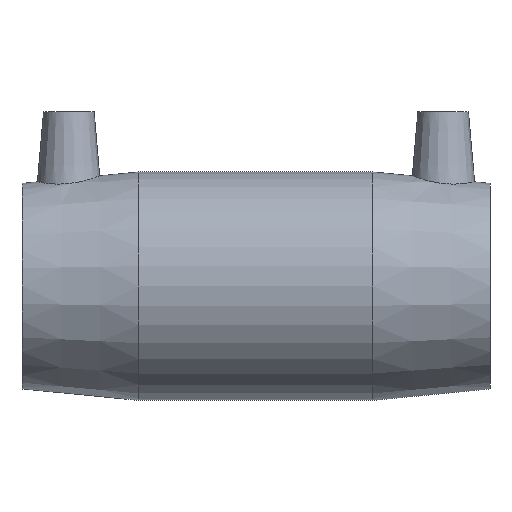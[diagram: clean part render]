
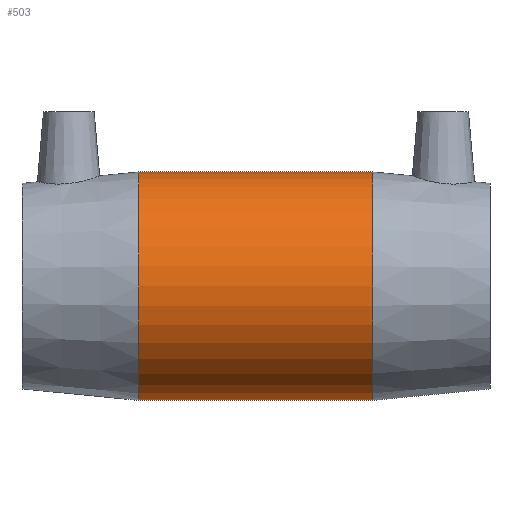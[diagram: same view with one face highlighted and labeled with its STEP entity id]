
A CAD part, top view. The second image highlights one B-rep face of the part: STEP entity #503.
In plain terms, the highlighted cylindrical face has radius 33.909 mm (diameter 67.818 mm), a full revolution.
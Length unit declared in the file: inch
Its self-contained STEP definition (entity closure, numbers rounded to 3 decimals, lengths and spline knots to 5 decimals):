
#26=FACE_BOUND('',#101,.T.);
#64=FACE_OUTER_BOUND('',#100,.T.);
#100=EDGE_LOOP('',(#384,#385,#386,#387,#388,#389));
#101=EDGE_LOOP('',(#390,#391));
#128=B_SPLINE_CURVE_WITH_KNOTS('',3,(#862,#863,#864,#865,#866,#867,#868,
#869,#870,#871,#872,#873,#874,#875,#876,#877,#878,#879),.UNSPECIFIED.,.F.,
 .F.,(4,2,2,2,2,2,2,2,4),(0.,0.47902,0.95804,1.43707,
1.91609,2.38776,2.85944,3.33112,3.80279),
 .UNSPECIFIED.);
#129=B_SPLINE_CURVE_WITH_KNOTS('',3,(#880,#881,#882,#883,#884,#885,#886,
#887,#888,#889,#890,#891,#892,#893,#894,#895,#896,#897,#898,#899,#900,#901,
#902,#903,#904,#905,#906,#907,#908,#909,#910,#911,#912,#913,#914,#915,#916,
#917,#918,#919,#920,#921,#922,#923,#924,#925,#926,#927,#928,#929),
 .UNSPECIFIED.,.F.,.F.,(4,2,2,2,2,2,2,2,2,2,2,2,2,2,2,2,2,2,2,2,2,2,2,2,
4),(3.80279,4.27447,4.74614,5.21782,
5.6895,6.16852,6.64754,7.12656,7.60559,
8.08461,8.56363,9.04265,9.52167,9.99335,
10.46503,10.9367,11.40838,11.88005,12.35173,
12.82341,13.29508,13.7741,14.25313,14.73215,
15.21117),.UNSPECIFIED.);
#142=LINE('',#1054,#160);
#160=VECTOR('',#684,1.335);
#182=CIRCLE('',#567,1.335);
#183=CIRCLE('',#568,1.335);
#184=CIRCLE('',#569,1.335);
#185=CIRCLE('',#570,1.335);
#217=VERTEX_POINT('',#860);
#218=VERTEX_POINT('',#861);
#234=VERTEX_POINT('',#1049);
#235=VERTEX_POINT('',#1050);
#236=VERTEX_POINT('',#1053);
#237=VERTEX_POINT('',#1055);
#270=EDGE_CURVE('',#217,#218,#128,.T.);
#271=EDGE_CURVE('',#218,#217,#129,.T.);
#294=EDGE_CURVE('',#234,#235,#182,.T.);
#295=EDGE_CURVE('',#235,#234,#183,.T.);
#296=EDGE_CURVE('',#235,#236,#142,.T.);
#297=EDGE_CURVE('',#236,#237,#184,.T.);
#298=EDGE_CURVE('',#237,#236,#185,.T.);
#384=ORIENTED_EDGE('',*,*,#294,.F.);
#385=ORIENTED_EDGE('',*,*,#295,.F.);
#386=ORIENTED_EDGE('',*,*,#296,.T.);
#387=ORIENTED_EDGE('',*,*,#297,.T.);
#388=ORIENTED_EDGE('',*,*,#298,.T.);
#389=ORIENTED_EDGE('',*,*,#296,.F.);
#390=ORIENTED_EDGE('',*,*,#270,.T.);
#391=ORIENTED_EDGE('',*,*,#271,.T.);
#482=CYLINDRICAL_SURFACE('',#566,1.335);
#503=ADVANCED_FACE('',(#64,#26),#482,.T.);
#566=AXIS2_PLACEMENT_3D('',#1048,#678,#679);
#567=AXIS2_PLACEMENT_3D('',#1051,#680,#681);
#568=AXIS2_PLACEMENT_3D('',#1052,#682,#683);
#569=AXIS2_PLACEMENT_3D('',#1056,#685,#686);
#570=AXIS2_PLACEMENT_3D('',#1057,#687,#688);
#678=DIRECTION('center_axis',(1.,0.,0.));
#679=DIRECTION('ref_axis',(0.,1.,0.));
#680=DIRECTION('center_axis',(1.,0.,0.));
#681=DIRECTION('ref_axis',(0.,0.,-1.));
#682=DIRECTION('center_axis',(1.,0.,0.));
#683=DIRECTION('ref_axis',(0.,0.,-1.));
#684=DIRECTION('',(-1.,0.,0.));
#685=DIRECTION('center_axis',(1.,0.,0.));
#686=DIRECTION('ref_axis',(0.,0.,-1.));
#687=DIRECTION('center_axis',(1.,0.,0.));
#688=DIRECTION('ref_axis',(0.,0.,-1.));
#860=CARTESIAN_POINT('',(0.,-0.94685,-0.94112));
#861=CARTESIAN_POINT('',(0.94685,0.,-1.335));
#862=CARTESIAN_POINT('Ctrl Pts',(0.,-0.94685,
-0.94112));
#863=CARTESIAN_POINT('Ctrl Pts',(0.06286,-0.94685,
-0.94112));
#864=CARTESIAN_POINT('Ctrl Pts',(0.12638,-0.94051,-0.94761));
#865=CARTESIAN_POINT('Ctrl Pts',(0.25054,-0.9153,-0.97199));
#866=CARTESIAN_POINT('Ctrl Pts',(0.31121,-0.89643,-0.98978));
#867=CARTESIAN_POINT('Ctrl Pts',(0.42643,-0.8477,-1.03183));
#868=CARTESIAN_POINT('Ctrl Pts',(0.4811,-0.81779,-1.05604));
#869=CARTESIAN_POINT('Ctrl Pts',(0.58209,-0.74928,-1.10571));
#870=CARTESIAN_POINT('Ctrl Pts',(0.62839,-0.71065,-1.13113));
#871=CARTESIAN_POINT('Ctrl Pts',(0.71002,-0.62902,-1.17845));
#872=CARTESIAN_POINT('Ctrl Pts',(0.74852,-0.58307,-1.2022));
#873=CARTESIAN_POINT('Ctrl Pts',(0.81723,-0.48207,-1.24614));
#874=CARTESIAN_POINT('Ctrl Pts',(0.84744,-0.42702,-1.2663));
#875=CARTESIAN_POINT('Ctrl Pts',(0.89657,-0.3109,-1.2997));
#876=CARTESIAN_POINT('Ctrl Pts',(0.91554,-0.2497,-1.31295));
#877=CARTESIAN_POINT('Ctrl Pts',(0.94068,-0.1252,-1.3306));
#878=CARTESIAN_POINT('Ctrl Pts',(0.94685,-0.0619,
-1.335));
#879=CARTESIAN_POINT('Ctrl Pts',(0.94685,0.,
-1.335));
#880=CARTESIAN_POINT('Ctrl Pts',(0.94685,0.,
-1.335));
#881=CARTESIAN_POINT('Ctrl Pts',(0.94685,0.0619,-1.335));
#882=CARTESIAN_POINT('Ctrl Pts',(0.94068,0.1252,-1.3306));
#883=CARTESIAN_POINT('Ctrl Pts',(0.91554,0.2497,-1.31295));
#884=CARTESIAN_POINT('Ctrl Pts',(0.89657,0.3109,-1.2997));
#885=CARTESIAN_POINT('Ctrl Pts',(0.84744,0.42702,-1.2663));
#886=CARTESIAN_POINT('Ctrl Pts',(0.81723,0.48207,-1.24614));
#887=CARTESIAN_POINT('Ctrl Pts',(0.74852,0.58307,-1.2022));
#888=CARTESIAN_POINT('Ctrl Pts',(0.71002,0.62902,-1.17845));
#889=CARTESIAN_POINT('Ctrl Pts',(0.62839,0.71065,-1.13113));
#890=CARTESIAN_POINT('Ctrl Pts',(0.58209,0.74928,-1.10571));
#891=CARTESIAN_POINT('Ctrl Pts',(0.4811,0.81779,-1.05604));
#892=CARTESIAN_POINT('Ctrl Pts',(0.42643,0.8477,-1.03183));
#893=CARTESIAN_POINT('Ctrl Pts',(0.31121,0.89643,-0.98978));
#894=CARTESIAN_POINT('Ctrl Pts',(0.25054,0.9153,-0.97199));
#895=CARTESIAN_POINT('Ctrl Pts',(0.12638,0.94051,-0.94761));
#896=CARTESIAN_POINT('Ctrl Pts',(0.06286,0.94685,-0.94112));
#897=CARTESIAN_POINT('Ctrl Pts',(-0.06286,0.94685,
-0.94112));
#898=CARTESIAN_POINT('Ctrl Pts',(-0.12638,0.94051,-0.94761));
#899=CARTESIAN_POINT('Ctrl Pts',(-0.25054,0.9153,-0.97199));
#900=CARTESIAN_POINT('Ctrl Pts',(-0.31121,0.89643,-0.98978));
#901=CARTESIAN_POINT('Ctrl Pts',(-0.42643,0.8477,-1.03183));
#902=CARTESIAN_POINT('Ctrl Pts',(-0.4811,0.81779,-1.05604));
#903=CARTESIAN_POINT('Ctrl Pts',(-0.58209,0.74928,-1.10571));
#904=CARTESIAN_POINT('Ctrl Pts',(-0.62839,0.71065,-1.13113));
#905=CARTESIAN_POINT('Ctrl Pts',(-0.71002,0.62902,-1.17845));
#906=CARTESIAN_POINT('Ctrl Pts',(-0.74852,0.58307,-1.2022));
#907=CARTESIAN_POINT('Ctrl Pts',(-0.81723,0.48207,-1.24614));
#908=CARTESIAN_POINT('Ctrl Pts',(-0.84744,0.42702,-1.2663));
#909=CARTESIAN_POINT('Ctrl Pts',(-0.89657,0.3109,-1.2997));
#910=CARTESIAN_POINT('Ctrl Pts',(-0.91554,0.2497,-1.31295));
#911=CARTESIAN_POINT('Ctrl Pts',(-0.94068,0.1252,-1.3306));
#912=CARTESIAN_POINT('Ctrl Pts',(-0.94685,0.0619,
-1.335));
#913=CARTESIAN_POINT('Ctrl Pts',(-0.94685,-0.0619,
-1.335));
#914=CARTESIAN_POINT('Ctrl Pts',(-0.94068,-0.1252,
-1.3306));
#915=CARTESIAN_POINT('Ctrl Pts',(-0.91554,-0.2497,
-1.31295));
#916=CARTESIAN_POINT('Ctrl Pts',(-0.89657,-0.3109,
-1.2997));
#917=CARTESIAN_POINT('Ctrl Pts',(-0.84744,-0.42702,
-1.2663));
#918=CARTESIAN_POINT('Ctrl Pts',(-0.81723,-0.48207,
-1.24614));
#919=CARTESIAN_POINT('Ctrl Pts',(-0.74852,-0.58307,
-1.2022));
#920=CARTESIAN_POINT('Ctrl Pts',(-0.71002,-0.62902,
-1.17845));
#921=CARTESIAN_POINT('Ctrl Pts',(-0.62839,-0.71065,
-1.13113));
#922=CARTESIAN_POINT('Ctrl Pts',(-0.58209,-0.74928,
-1.10571));
#923=CARTESIAN_POINT('Ctrl Pts',(-0.4811,-0.81779,
-1.05604));
#924=CARTESIAN_POINT('Ctrl Pts',(-0.42643,-0.8477,
-1.03183));
#925=CARTESIAN_POINT('Ctrl Pts',(-0.31121,-0.89643,-0.98978));
#926=CARTESIAN_POINT('Ctrl Pts',(-0.25054,-0.9153,
-0.97199));
#927=CARTESIAN_POINT('Ctrl Pts',(-0.12638,-0.94051,
-0.94761));
#928=CARTESIAN_POINT('Ctrl Pts',(-0.06286,-0.94685,
-0.94112));
#929=CARTESIAN_POINT('Ctrl Pts',(0.,-0.94685,
-0.94112));
#1048=CARTESIAN_POINT('Origin',(0.,0.,0.));
#1049=CARTESIAN_POINT('',(1.3675,1.335,0.));
#1050=CARTESIAN_POINT('',(1.3675,-1.335,0.));
#1051=CARTESIAN_POINT('Origin',(1.3675,0.,0.));
#1052=CARTESIAN_POINT('Origin',(1.3675,0.,0.));
#1053=CARTESIAN_POINT('',(-1.3675,-1.335,0.));
#1054=CARTESIAN_POINT('',(0.,-1.335,0.));
#1055=CARTESIAN_POINT('',(-1.3675,1.335,0.));
#1056=CARTESIAN_POINT('Origin',(-1.3675,0.,0.));
#1057=CARTESIAN_POINT('Origin',(-1.3675,0.,0.));
